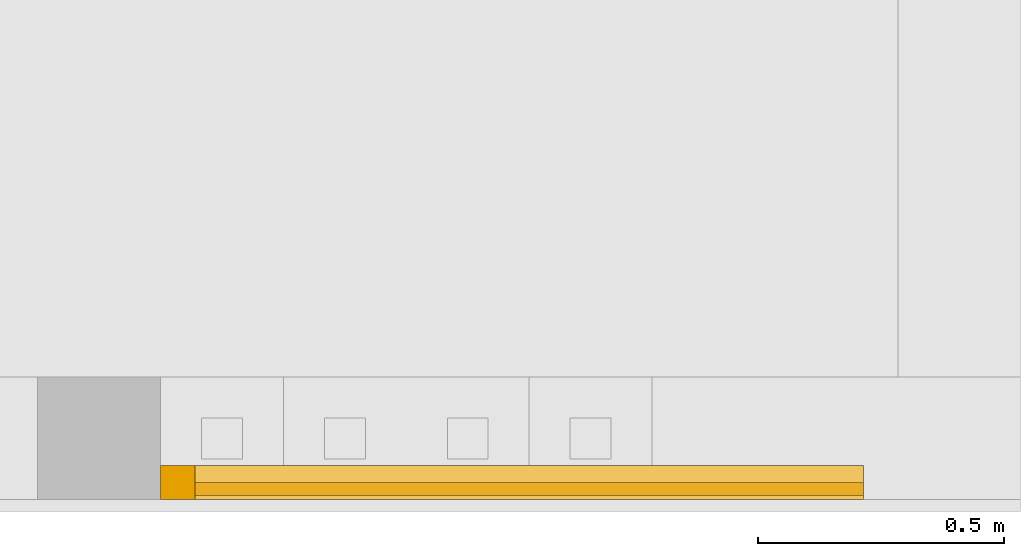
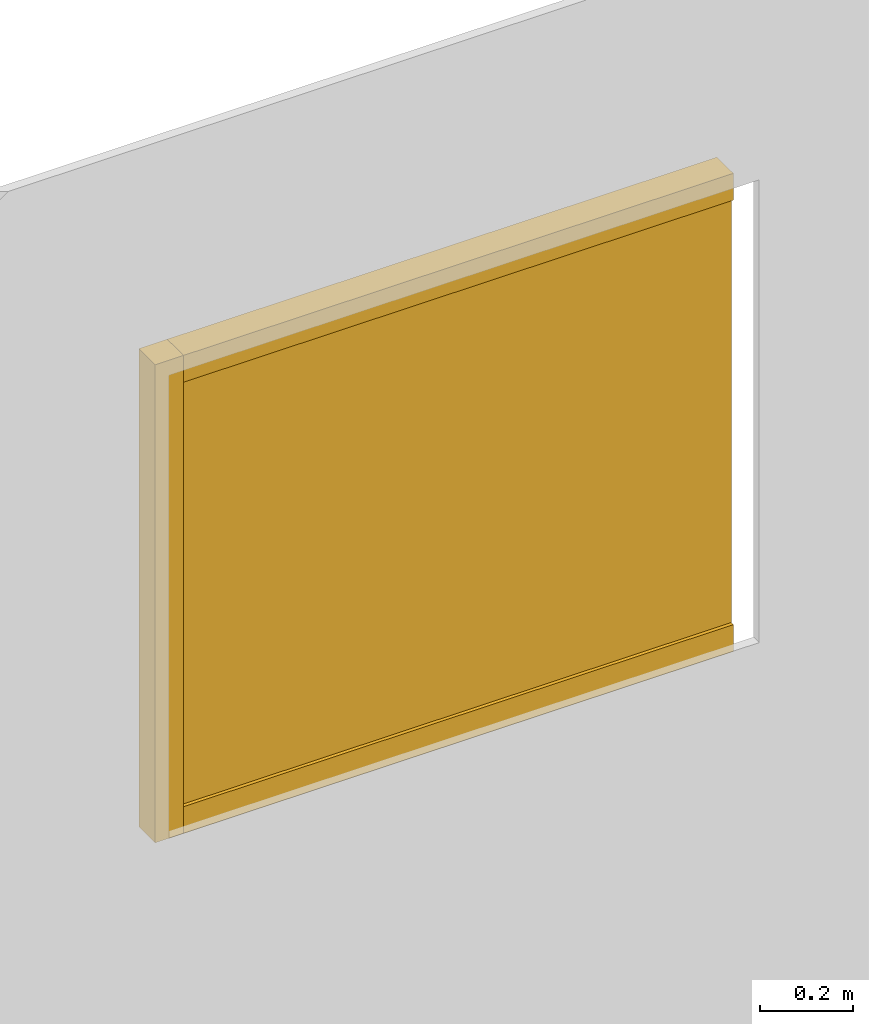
# One storey, part 9 of 9: 4 windows.
"""IFC4 building model written with IfcOpenShell, lengths in centimetres."""

from ifc_helpers import new_model, entity, si_unit, converted_unit, direction, frame, origin, place, context, subcontext, project, spatial, indexed_curve, outline, extrude, source, transform, mapped, material, type_object, type_shapes, element, save


model = new_model("IFC4")

# Units and contexts
model_context = context("Model", 3, precision=0.001, world=origin(), true_north=direction((0.0, 1.0)))
body_context = subcontext(model_context, "Body", "Model", "MODEL_VIEW")
ifc_project = project(units=[si_unit("LENGTHUNIT", "METRE", prefix="CENTI"), si_unit("AREAUNIT", "SQUARE_METRE"), si_unit("VOLUMEUNIT", "CUBIC_METRE"), converted_unit("PLANEANGLEUNIT", "DEGREE", entity("IfcPlaneAngleMeasure", 0.017453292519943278), si_unit("PLANEANGLEUNIT", "RADIAN"), dimensions=[0, 0, 0, 0, 0, 0, 0])], contexts=[model_context])

# Site, building, storey
site_placement = place(None, origin())
site = spatial("IfcSite", under=ifc_project, at=site_placement, Name="Default", CompositionType="ELEMENT")
building_placement = place(site_placement, origin())
building = spatial("IfcBuilding", under=site, at=building_placement, CompositionType="ELEMENT")
storey_placement = place(building_placement, frame((0.0, 0.0, -4.0)))
storey = spatial("IfcBuildingStorey", under=building, at=storey_placement, Name="L00__ABOVE Slab", CompositionType="ELEMENT", Elevation=-4.000000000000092)

# Windows
ifc_material_1 = material(Name="_WINDOW__Glazing", Category="Unassigned")
window_type_1 = type_object("IfcWindowType", Name="Windows : wdw_s__PANEL__Fixed__wp : Glazed", PartitioningType="NOTDEFINED", PredefinedType="WINDOW", material=ifc_material_1)
shared_shape_1 = source(origin(), body_context, "Body", "SweptSolid", [
    extrude(outline(indexed_curve([(-68.00000000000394, -1.3000000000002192), (68.00000000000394, -1.2999999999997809), (68.00000000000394, 1.3000000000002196), (-68.00000000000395, 1.2999999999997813), (-68.00000000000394, -1.3000000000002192)], self_intersect=False)), frame((68.0, 2.2000000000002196, 0.0)), (0.0, 0.0, 1.0), 111.00000000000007),
])
type_shapes(window_type_1, [shared_shape_1])
window_1_placement = place(storey_placement, frame((3013.8289147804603, 2128.5200309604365, 107.0)))
element("IfcWindow", 1, at=window_1_placement, inside=storey, type_object=window_type_1, material=ifc_material_1, Name="Windows : wdw_s__PANEL__Fixed__wp : Glazed", OverallHeight=7.0000000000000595, OverallWidth=136.00000000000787, PartitioningType="NOTDEFINED", PredefinedType="WINDOW", context=body_context, shape_type="MappedRepresentation", body=[
    mapped(shared_shape_1, transform((0.0, 0.0, 0.0), scale=1.0)),
])
ifc_material_2 = material(Name="_WINDOW__Profile__Aluminium", Category="Miscellaneous")
window_type_2 = type_object("IfcWindowType", Name="Windows : wdw_s__PROFILE__Frame__wp : Wood", PartitioningType="NOTDEFINED", PredefinedType="WINDOW", material=ifc_material_2)
shared_shape_2 = source(origin(), body_context, "Body", "SweptSolid", [
    extrude(outline(indexed_curve([(-3.4999999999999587, -3.5000000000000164), (3.4999999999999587, -3.5000000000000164), (3.4999999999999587, 3.5000000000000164), (-3.4999999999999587, 3.5000000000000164), (-3.4999999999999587, -3.5000000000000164)], self_intersect=False)), frame((3.5000000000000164, 3.4999999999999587, 0.0), z_axis=(0.0, 0.0, 1.0), x_axis=(0.0, -1.0, 0.0)), (0.0, 0.0, 1.0), 125.0),
])
type_shapes(window_type_2, [shared_shape_2])
window_2_placement = place(storey_placement, frame((3006.8289147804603, 2128.5200309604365, 100.0)))
element("IfcWindow", 2, at=window_2_placement, inside=storey, type_object=window_type_2, material=ifc_material_2, Name="Windows : wdw_s__PROFILE__Frame__wp : Wood", OverallHeight=28.355733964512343, OverallWidth=7.000000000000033, PartitioningType="NOTDEFINED", PredefinedType="WINDOW", context=body_context, shape_type="MappedRepresentation", body=[
    mapped(shared_shape_2, transform((0.0, 0.0, 0.0), scale=1.0)),
])
window_type_3 = type_object("IfcWindowType", Name="Windows : wdw_s__PROFILE__Frame__wp : Wood", PartitioningType="NOTDEFINED", PredefinedType="WINDOW", material=ifc_material_2)
shared_shape_3 = source(origin(), body_context, "Body", "SweptSolid", [
    extrude(outline(indexed_curve([(-3.4999999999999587, -3.5000000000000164), (3.4999999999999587, -3.5000000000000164), (3.4999999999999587, 3.5000000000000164), (-3.4999999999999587, 3.5000000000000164), (-3.4999999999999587, -3.5000000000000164)], self_intersect=False)), frame((3.5000000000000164, 3.4999999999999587, 0.0), z_axis=(0.0, 0.0, 1.0), x_axis=(0.0, -1.0, 0.0)), (0.0, 0.0, 1.0), 136.0000000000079),
])
type_shapes(window_type_3, [shared_shape_3])
window_3_placement = place(storey_placement, frame((3149.828914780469, 2128.520030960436, 100.0), z_axis=(-1.0, 0.0, 0.0), x_axis=(0.0, 0.0, 1.0)))
element("IfcWindow", 3, at=window_3_placement, inside=storey, type_object=window_type_3, material=ifc_material_2, Name="Windows : wdw_s__PROFILE__Frame__wp : Wood", OverallHeight=28.355733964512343, OverallWidth=7.000000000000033, PartitioningType="NOTDEFINED", PredefinedType="WINDOW", context=body_context, shape_type="MappedRepresentation", body=[
    mapped(shared_shape_3, transform((0.0, 0.0, 0.0), scale=1.0)),
])
window_type_4 = type_object("IfcWindowType", Name="Windows : wdw_s__PROFILE__Frame__wp : Wood", PartitioningType="NOTDEFINED", PredefinedType="WINDOW", material=ifc_material_2)
shared_shape_4 = source(origin(), body_context, "Body", "SweptSolid", [
    extrude(outline(indexed_curve([(-3.5000000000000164, -3.4999999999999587), (3.5000000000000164, -3.4999999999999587), (3.5000000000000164, 3.4999999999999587), (-3.5000000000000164, 3.4999999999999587), (-3.5000000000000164, -3.4999999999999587)], self_intersect=False)), frame((3.5000000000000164, -3.4999999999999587, 0.0)), (0.0, 0.0, 1.0), 136.0000000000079),
])
type_shapes(window_type_4, [shared_shape_4])
window_4_placement = place(storey_placement, frame((3149.828914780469, 2128.520030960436, 225.0), z_axis=(-1.0, 0.0, 0.0), x_axis=(0.0, 0.0, -1.0)))
element("IfcWindow", 4, at=window_4_placement, inside=storey, type_object=window_type_4, material=ifc_material_2, Name="Windows : wdw_s__PROFILE__Frame__wp : Wood", OverallHeight=28.355733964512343, OverallWidth=7.000000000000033, PartitioningType="NOTDEFINED", PredefinedType="WINDOW", context=body_context, shape_type="MappedRepresentation", body=[
    mapped(shared_shape_4, transform((0.0, 0.0, 0.0), scale=1.0)),
])

save(model, "model.ifc")
